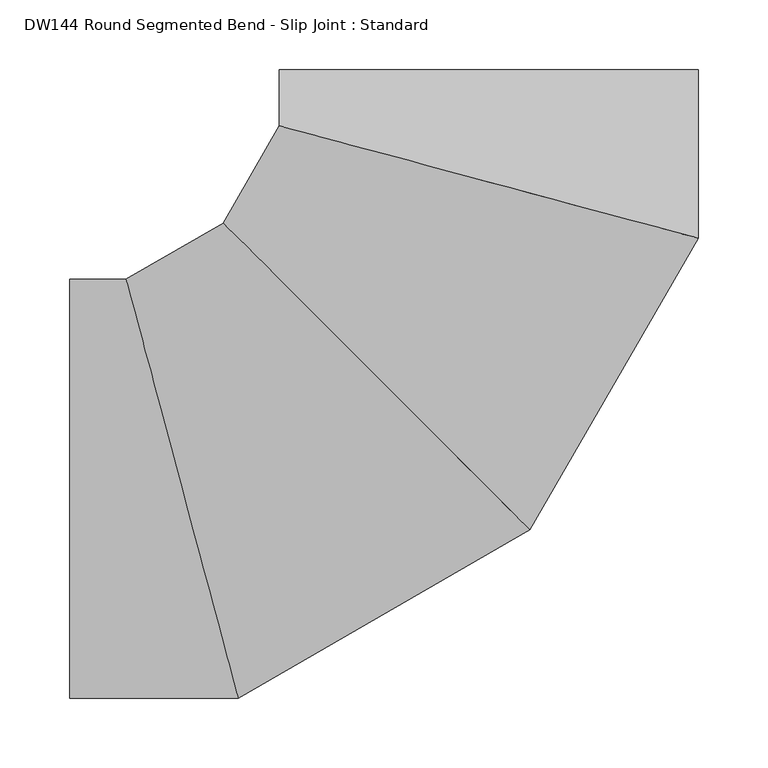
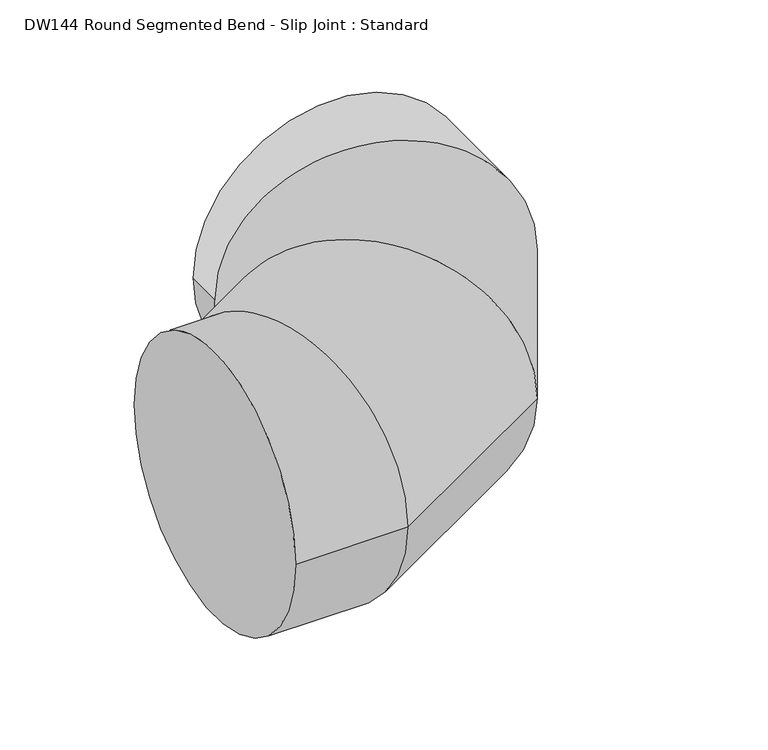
"""IFC4 building model written with IfcOpenShell, lengths in millimetres: duct fitting geometry, DW144 Round Segmented Bend - Slip Joint : Standard."""

from ifc_helpers import new_model, si_unit, frame, origin, place, context, project, spatial, circle_curve, ellipse_curve, source, transform, mapped, element, save
from ifc_brep_helpers import plane_surface, cylinder_surface, advanced_brep


def dw144_round_segmented_bend_slip_joint_standard_81339629(model_context):
    return source(origin(), model_context, "Body", "AdvancedBrep", [
        advanced_brep(
        [(-300.0, -150.0, 0.0), (-300.0, 150.0, 0.0), (-179.4228634, -150.0, 0.0), (-259.8076211, 150.0, 0.0), (29.4228634, -29.4228634, 0.0), (-190.1923789, 190.1923789, 0.0), (150.0, 179.4228634, 0.0), (-150.0, 259.8076211, 0.0), (150.0, 300.0, 0.0), (-150.0, 300.0, 0.0)],
        [
            (0, 1, circle_curve(frame((-300.0, 0.0, 0.0), z_axis=(-1.0, 0.0, 0.0), x_axis=(0.0, 1.0, 0.0)), 150.0)),
            (1, 0, circle_curve(frame((-300.0, 0.0, 0.0), z_axis=(-1.0, 0.0, 0.0), x_axis=(0.0, 1.0, 0.0)), 150.0)),
            (0, 2),
            (2, 3, ellipse_curve(frame((-219.6152423, 0.0, 0.0), z_axis=(-0.9659258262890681, -0.2588190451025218, 0.0), x_axis=(-0.25881904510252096, 0.9659258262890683, 0.0)), 155.2914271, 150.0)),
            (3, 1),
            (3, 2, ellipse_curve(frame((-219.6152423, 0.0, 0.0), z_axis=(-0.9659258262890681, -0.2588190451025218, 0.0), x_axis=(-0.25881904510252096, 0.9659258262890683, 0.0)), 155.2914271, 150.0)),
            (2, 4),
            (4, 5, ellipse_curve(frame((-80.3847577, 80.3847577, 0.0), z_axis=(-0.7071067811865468, -0.7071067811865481, 0.0), x_axis=(-0.7071067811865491, 0.7071067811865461, 0.0)), 155.2914271, 150.0)),
            (5, 3),
            (5, 4, ellipse_curve(frame((-80.3847577, 80.3847577, 0.0), z_axis=(-0.7071067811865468, -0.7071067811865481, 0.0), x_axis=(-0.7071067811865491, 0.7071067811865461, 0.0)), 155.2914271, 150.0)),
            (4, 6),
            (6, 7, ellipse_curve(frame((0.0, 219.6152423, 0.0), z_axis=(-0.25881904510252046, -0.9659258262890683, 0.0), x_axis=(-0.9659258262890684, 0.25881904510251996, 0.0)), 155.2914271, 150.0)),
            (7, 5),
            (7, 6, ellipse_curve(frame((0.0, 219.6152423, 0.0), z_axis=(-0.25881904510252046, -0.9659258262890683, 0.0), x_axis=(-0.9659258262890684, 0.25881904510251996, 0.0)), 155.2914271, 150.0)),
            (8, 9, circle_curve(frame((0.0, 300.0, 0.0), z_axis=(0.0, 1.0, 0.0), x_axis=(-1.0, 0.0, 0.0)), 150.0)),
            (9, 8, circle_curve(frame((0.0, 300.0, 0.0), z_axis=(0.0, 1.0, 0.0), x_axis=(-1.0, 0.0, 0.0)), 150.0)),
            (6, 8),
            (9, 7),
        ],
        [
            plane_surface(frame((-300.0, 0.0, 0.0), z_axis=(-1.0, 0.0, 0.0), x_axis=(0.0, 0.0, 1.0))),
            cylinder_surface(frame((-300.0, 0.0, 0.0), z_axis=(-1.0, 0.0, 0.0), x_axis=(0.0, 1.0, 0.0)), 150.0),
            cylinder_surface(frame((-219.6152423, 0.0, 0.0), z_axis=(-0.8660254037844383, -0.5000000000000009, 0.0), x_axis=(-0.5000000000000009, 0.8660254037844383, 0.0)), 150.0),
            cylinder_surface(frame((-80.3847577, 80.3847577, 0.0), z_axis=(-0.49999999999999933, -0.8660254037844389, 0.0), x_axis=(-0.8660254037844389, 0.49999999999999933, 0.0)), 150.0),
            plane_surface(frame((0.0, 300.0, 0.0), z_axis=(0.0, 1.0, 0.0), x_axis=(0.0, 0.0, 1.0))),
            cylinder_surface(frame((0.0, 219.6152423, 0.0), z_axis=(0.0, -1.0, 0.0), x_axis=(-1.0, 0.0, 0.0)), 150.0),
        ],
        [
            (0, [[1, 2]]),
            (1, [[-1, 3, 4, 5]]),
            (1, [[-2, -5, 6, -3]]),
            (2, [[-4, 7, 8, 9]]),
            (2, [[-6, -9, 10, -7]]),
            (3, [[-8, 11, 12, 13]]),
            (3, [[-10, -13, 14, -11]]),
            (4, [[15, 16]]),
            (5, [[-12, 17, -16, 18]]),
            (5, [[-14, -18, -15, -17]]),
        ],
    ),
    ])


if __name__ == "__main__":
    model = new_model("IFC4")
    model_context = context("Model", 3, world=origin())
    ifc_project = project(units=[si_unit("LENGTHUNIT", "METRE", prefix="MILLI")], contexts=[model_context])
    site = spatial("IfcSite", under=ifc_project)
    building = spatial("IfcBuilding", under=site)
    placement = place(None, origin())
    dw144_round_segmented_bend_slip_joint_standard_shape = dw144_round_segmented_bend_slip_joint_standard_81339629(model_context)
    element("IfcDuctFitting", 1, ObjectType="DW144 Round Segmented Bend - Slip Joint : Standard", at=placement, inside=building, context=model_context, shape_type="MappedRepresentation", body=[
        mapped(dw144_round_segmented_bend_slip_joint_standard_shape, transform((0.0, 0.0, 0.0), x_axis=(1.0, 0.0, 0.0), y_axis=(0.0, 1.0, 0.0), z_axis=(0.0, 0.0, 1.0))),
    ])
    save(model, "model.ifc")
